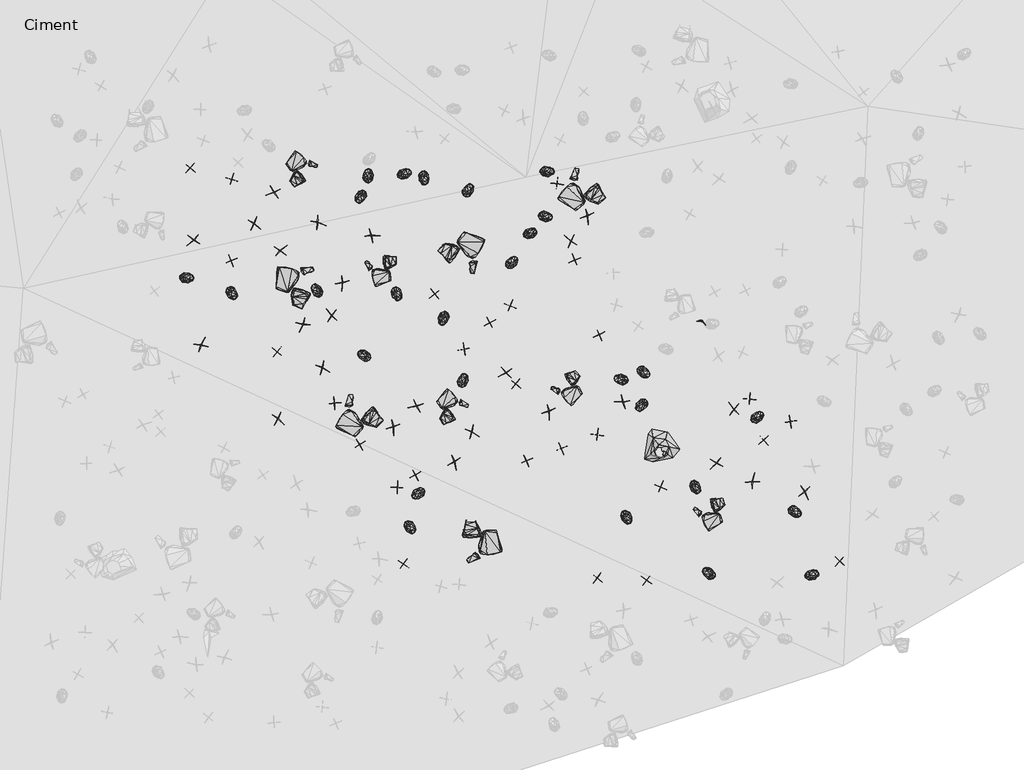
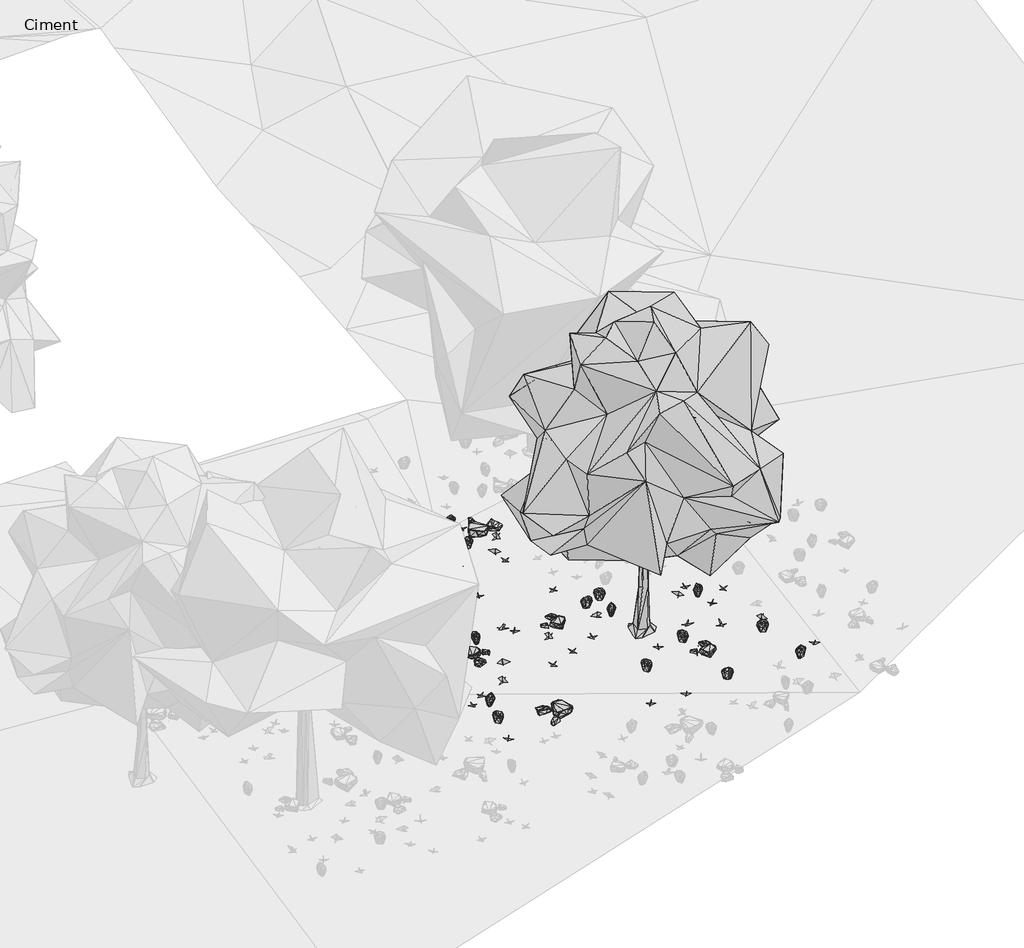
# One storey, part 12 of 30: 90 geographic elements.
"""IFC4 building model written with IfcOpenShell, lengths in millimetres."""

from ifc_helpers import new_model, si_unit, origin, place, context, project, spatial, transform, mapped, element, save
from components import enscape_assetdefinition_bush_025_fern_enscape_5718bf32, enscape_assetdefinition_bush_054_plant_09_version_2_enscape_7b546a12, enscape_assetdefinition_bush_062_plant_09_version_3_enscape_ccf8c8eb, enscape_assetdefinition_deciduous_tree_024_elm_enscape_8f9d8ef3, enscape_assetdefinition_stone_013_group_enscape_516da325, enscape_assetdefinition_stone_013_group_enscape_db9b3e91

model = new_model("IFC4")

# Units and contexts
model_context = context("Model", 3, world=origin())
ifc_project = project(units=[si_unit("LENGTHUNIT", "METRE", prefix="MILLI")], contexts=[model_context])

# Site, building, storey
site = spatial("IfcSite", under=ifc_project)
building = spatial("IfcBuilding", under=site)
storey = spatial("IfcBuildingStorey", under=building, Name="Ciment", Elevation=-1500.0)

# Geographic elements
placement = place(None, origin())
enscape_assetdefinition_bush_025_fern_enscape_shape = enscape_assetdefinition_bush_025_fern_enscape_5718bf32(model_context)
element("IfcGeographicElement", 1, ObjectType="Enscape AssetDefinition - Bush 025 Fern : Enscape AssetDefinition - Bush 025 Fern", at=placement, inside=storey, context=model_context, shape_type="MappedRepresentation", body=[
    mapped(enscape_assetdefinition_bush_025_fern_enscape_shape, transform((11021.7952728, -20855.3447723, -2519.2530155), x_axis=(0.6796096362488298, 0.7335739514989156, 0.0), y_axis=(-0.7335739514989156, 0.6796096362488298, 0.0), z_axis=(0.0, 0.0, 1.0))),
])
element("IfcGeographicElement", 2, ObjectType="Enscape AssetDefinition - Bush 025 Fern : Enscape AssetDefinition - Bush 025 Fern", at=placement, inside=storey, context=model_context, shape_type="MappedRepresentation", body=[
    mapped(enscape_assetdefinition_bush_025_fern_enscape_shape, transform((4358.71315, -22976.7246246, -2567.6140785), x_axis=(0.6626952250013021, -0.7488892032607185, 0.0), y_axis=(0.7488892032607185, 0.6626952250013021, 0.0), z_axis=(0.0, 0.0, 1.0))),
])
element("IfcGeographicElement", 3, ObjectType="Enscape AssetDefinition - Bush 025 Fern : Enscape AssetDefinition - Bush 025 Fern", at=placement, inside=storey, context=model_context, shape_type="MappedRepresentation", body=[
    mapped(enscape_assetdefinition_bush_025_fern_enscape_shape, transform((943.5005188, -18489.60495, -2092.2756195), x_axis=(0.6561057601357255, -0.7546689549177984, 0.0), y_axis=(0.7546689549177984, 0.6561057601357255, 0.0), z_axis=(0.0, 0.0, 1.0))),
])
element("IfcGeographicElement", 4, ObjectType="Enscape AssetDefinition - Bush 025 Fern : Enscape AssetDefinition - Bush 025 Fern", at=placement, inside=storey, context=model_context, shape_type="MappedRepresentation", body=[
    mapped(enscape_assetdefinition_bush_025_fern_enscape_shape, transform((3559.2517853, -16225.2941132, -1907.2303772), x_axis=(-0.034891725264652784, 0.9993910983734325, 0.0), y_axis=(-0.9993910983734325, -0.034891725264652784, 0.0), z_axis=(0.0, 0.0, 1.0))),
])
element("IfcGeographicElement", 5, ObjectType="Enscape AssetDefinition - Bush 025 Fern : Enscape AssetDefinition - Bush 025 Fern", at=placement, inside=storey, context=model_context, shape_type="MappedRepresentation", body=[
    mapped(enscape_assetdefinition_bush_025_fern_enscape_shape, transform((9826.5514374, -22208.6353302, -2622.6863861), x_axis=(0.5744602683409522, -0.818532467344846, 0.0), y_axis=(0.818532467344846, 0.5744602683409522, 0.0), z_axis=(0.0, 0.0, 1.0))),
])
element("IfcGeographicElement", 6, ObjectType="Enscape AssetDefinition - Bush 025 Fern : Enscape AssetDefinition - Bush 025 Fern", at=placement, inside=storey, context=model_context, shape_type="MappedRepresentation", body=[
    mapped(enscape_assetdefinition_bush_025_fern_enscape_shape, transform((5479.757309, -16505.1708221, -1999.9855757), x_axis=(0.39936852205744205, 0.9167904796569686, 0.0), y_axis=(-0.9167904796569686, 0.39936852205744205, 0.0), z_axis=(0.0, 0.0, 1.0))),
])
element("IfcGeographicElement", 7, ObjectType="Enscape AssetDefinition - Bush 025 Fern : Enscape AssetDefinition - Bush 025 Fern", at=placement, inside=storey, context=model_context, shape_type="MappedRepresentation", body=[
    mapped(enscape_assetdefinition_bush_025_fern_enscape_shape, transform((6314.8827553, -17887.6056671, -2146.4295387), x_axis=(0.5851652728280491, 0.8109140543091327, 0.0), y_axis=(-0.8109140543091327, 0.5851652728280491, 0.0), z_axis=(0.0, 0.0, 1.0))),
])
element("IfcGeographicElement", 8, ObjectType="Enscape AssetDefinition - Bush 025 Fern : Enscape AssetDefinition - Bush 025 Fern", at=placement, inside=storey, context=model_context, shape_type="MappedRepresentation", body=[
    mapped(enscape_assetdefinition_bush_025_fern_enscape_shape, transform((8507.8487396, -22786.0279083, -2649.561882), x_axis=(0.5706716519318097, -0.8211783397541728, 0.0), y_axis=(0.8211783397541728, 0.5706716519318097, 0.0), z_axis=(0.0, 0.0, 1.0))),
])
element("IfcGeographicElement", 9, ObjectType="Enscape AssetDefinition - Bush 025 Fern : Enscape AssetDefinition - Bush 025 Fern", at=placement, inside=storey, context=model_context, shape_type="MappedRepresentation", body=[
    mapped(enscape_assetdefinition_bush_025_fern_enscape_shape, transform((4258.7413788, -16194.8013306, -1923.519969), x_axis=(0.8985636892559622, 0.4388431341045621, 0.0), y_axis=(-0.4388431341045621, 0.8985636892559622, 0.0), z_axis=(0.0, 0.0, 1.0))),
])
element("IfcGeographicElement", 10, ObjectType="Enscape AssetDefinition - Bush 025 Fern : Enscape AssetDefinition - Bush 025 Fern", at=placement, inside=storey, context=model_context, shape_type="MappedRepresentation", body=[
    mapped(enscape_assetdefinition_bush_025_fern_enscape_shape, transform((4620.7485199, -16281.496048, -1945.4879761), x_axis=(0.2977200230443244, -0.9546532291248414, 0.0), y_axis=(0.9546532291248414, 0.2977200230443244, 0.0), z_axis=(0.0, 0.0, 1.0))),
])
element("IfcGeographicElement", 11, ObjectType="Enscape AssetDefinition - Bush 025 Fern : Enscape AssetDefinition - Bush 025 Fern", at=placement, inside=storey, context=model_context, shape_type="MappedRepresentation", body=[
    mapped(enscape_assetdefinition_bush_025_fern_enscape_shape, transform((10082.0217133, -23842.5807953, -2780.725956), x_axis=(-0.8589150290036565, 0.5121181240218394, 0.0), y_axis=(-0.5121181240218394, -0.8589150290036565, 0.0), z_axis=(0.0, 0.0, 1.0))),
])
element("IfcGeographicElement", 12, ObjectType="Enscape AssetDefinition - Bush 025 Fern : Enscape AssetDefinition - Bush 025 Fern", at=placement, inside=storey, context=model_context, shape_type="MappedRepresentation", body=[
    mapped(enscape_assetdefinition_bush_025_fern_enscape_shape, transform((4101.5753746, -18503.2711029, -2158.4897041), x_axis=(0.4796471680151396, -0.8774614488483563, 0.0), y_axis=(0.8774614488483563, 0.4796471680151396, 0.0), z_axis=(0.0, 0.0, 1.0))),
])
element("IfcGeographicElement", 13, ObjectType="Enscape AssetDefinition - Bush 025 Fern : Enscape AssetDefinition - Bush 025 Fern", at=placement, inside=storey, context=model_context, shape_type="MappedRepresentation", body=[
    mapped(enscape_assetdefinition_bush_025_fern_enscape_shape, transform((6958.9481354, -17015.7489777, -2078.1481266), x_axis=(0.9947204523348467, -0.10262174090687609, 0.0), y_axis=(0.10262174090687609, 0.9947204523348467, 0.0), z_axis=(0.0, 0.0, 1.0))),
])
element("IfcGeographicElement", 14, ObjectType="Enscape AssetDefinition - Bush 025 Fern : Enscape AssetDefinition - Bush 025 Fern", at=placement, inside=storey, context=model_context, shape_type="MappedRepresentation", body=[
    mapped(enscape_assetdefinition_bush_025_fern_enscape_shape, transform((11735.4297638, -22678.0490875, -2704.8373222), x_axis=(0.9013734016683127, -0.43304271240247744, 0.0), y_axis=(0.43304271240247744, 0.9013734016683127, 0.0), z_axis=(0.0, 0.0, 1.0))),
])
element("IfcGeographicElement", 15, ObjectType="Enscape AssetDefinition - Bush 025 Fern : Enscape AssetDefinition - Bush 025 Fern", at=placement, inside=storey, context=model_context, shape_type="MappedRepresentation", body=[
    mapped(enscape_assetdefinition_bush_025_fern_enscape_shape, transform((8835.9737396, -20002.2068024, -2395.9999084), x_axis=(0.8802910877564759, -0.47443397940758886, 0.0), y_axis=(0.47443397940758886, 0.8802910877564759, 0.0), z_axis=(0.0, 0.0, 1.0))),
])
element("IfcGeographicElement", 16, ObjectType="Enscape AssetDefinition - Bush 025 Fern : Enscape AssetDefinition - Bush 025 Fern", at=placement, inside=storey, context=model_context, shape_type="MappedRepresentation", body=[
    mapped(enscape_assetdefinition_bush_025_fern_enscape_shape, transform((8784.6927643, -20630.6018829, -2453.7053108), x_axis=(-0.5450980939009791, -0.8383722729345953, 0.0), y_axis=(0.8383722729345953, -0.5450980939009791, 0.0), z_axis=(0.0, 0.0, 1.0))),
])
element("IfcGeographicElement", 17, ObjectType="Enscape AssetDefinition - Bush 025 Fern : Enscape AssetDefinition - Bush 025 Fern", at=placement, inside=storey, context=model_context, shape_type="MappedRepresentation", body=[
    mapped(enscape_assetdefinition_bush_025_fern_enscape_shape, transform((12070.4784393, -23882.4520111, -2824.7976303), x_axis=(0.915598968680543, 0.4020926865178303, 0.0), y_axis=(-0.4020926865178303, 0.915598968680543, 0.0), z_axis=(0.0, 0.0, 1.0))),
])
element("IfcGeographicElement", 18, ObjectType="Enscape AssetDefinition - Bush 025 Fern : Enscape AssetDefinition - Bush 025 Fern", at=placement, inside=storey, context=model_context, shape_type="MappedRepresentation", body=[
    mapped(enscape_assetdefinition_bush_025_fern_enscape_shape, transform((4992.1131134, -18970.1042175, -2220.4537392), x_axis=(-0.22419190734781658, -0.9745450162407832, 0.0), y_axis=(0.9745450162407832, -0.22419190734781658, 0.0), z_axis=(0.0, 0.0, 1.0))),
])
element("IfcGeographicElement", 19, ObjectType="Enscape AssetDefinition - Bush 025 Fern : Enscape AssetDefinition - Bush 025 Fern", at=placement, inside=storey, context=model_context, shape_type="MappedRepresentation", body=[
    mapped(enscape_assetdefinition_bush_025_fern_enscape_shape, transform((6992.3233986, -16153.6121368, -1996.7064857), x_axis=(0.9950712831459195, 0.09916219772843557, 0.0), y_axis=(-0.09916219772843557, 0.9950712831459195, 0.0), z_axis=(0.0, 0.0, 1.0))),
])
element("IfcGeographicElement", 20, ObjectType="Enscape AssetDefinition - Bush 025 Fern : Enscape AssetDefinition - Bush 025 Fern", at=placement, inside=storey, context=model_context, shape_type="MappedRepresentation", body=[
    mapped(enscape_assetdefinition_bush_025_fern_enscape_shape, transform((8394.4826126, -20128.1795502, -2398.7014294), x_axis=(-0.9903510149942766, 0.13858162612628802, 0.0), y_axis=(-0.13858162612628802, -0.9903510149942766, 0.0), z_axis=(0.0, 0.0, 1.0))),
])
element("IfcGeographicElement", 21, ObjectType="Enscape AssetDefinition - Bush 025 Fern : Enscape AssetDefinition - Bush 025 Fern", at=placement, inside=storey, context=model_context, shape_type="MappedRepresentation", body=[
    mapped(enscape_assetdefinition_bush_025_fern_enscape_shape, transform((6667.1848297, -17333.1661224, -2101.8295288), x_axis=(0.8896094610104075, 0.45672202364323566, 0.0), y_axis=(-0.45672202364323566, 0.8896094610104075, 0.0), z_axis=(0.0, 0.0, 1.0))),
])
element("IfcGeographicElement", 22, ObjectType="Enscape AssetDefinition - Bush 025 Fern : Enscape AssetDefinition - Bush 025 Fern", at=placement, inside=storey, context=model_context, shape_type="MappedRepresentation", body=[
    mapped(enscape_assetdefinition_bush_025_fern_enscape_shape, transform((5376.4472008, -20149.0459442, -2338.5961056), x_axis=(0.25424516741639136, 0.9671398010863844, 0.0), y_axis=(-0.9671398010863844, 0.25424516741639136, 0.0), z_axis=(0.0, 0.0, 1.0))),
])
element("IfcGeographicElement", 23, ObjectType="Enscape AssetDefinition - Bush 025 Fern : Enscape AssetDefinition - Bush 025 Fern", at=placement, inside=storey, context=model_context, shape_type="MappedRepresentation", body=[
    mapped(enscape_assetdefinition_bush_025_fern_enscape_shape, transform((4504.9800873, -22321.5847015, -2518.2185173), x_axis=(-0.7461285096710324, -0.665801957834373, 0.0), y_axis=(0.665801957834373, -0.7461285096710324, 0.0), z_axis=(0.0, 0.0, 1.0))),
])
element("IfcGeographicElement", 24, ObjectType="Enscape AssetDefinition - Bush 025 Fern : Enscape AssetDefinition - Bush 025 Fern", at=placement, inside=storey, context=model_context, shape_type="MappedRepresentation", body=[
    mapped(enscape_assetdefinition_bush_025_fern_enscape_shape, transform((3404.7298431, -16638.3304596, -1957.3014975), x_axis=(-0.3665409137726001, -0.9304019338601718, 0.0), y_axis=(0.9304019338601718, -0.3665409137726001, 0.0), z_axis=(0.0, 0.0, 1.0))),
])
element("IfcGeographicElement", 25, ObjectType="Enscape AssetDefinition - Bush 025 Fern : Enscape AssetDefinition - Bush 025 Fern", at=placement, inside=storey, context=model_context, shape_type="MappedRepresentation", body=[
    mapped(enscape_assetdefinition_bush_025_fern_enscape_shape, transform((84.312439, -18192.0146942, -2046.7820168), x_axis=(0.9954423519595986, 0.09536521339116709, 0.0), y_axis=(-0.09536521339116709, 0.9954423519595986, 0.0), z_axis=(0.0, 0.0, 1.0))),
])
element("IfcGeographicElement", 26, ObjectType="Enscape AssetDefinition - Bush 025 Fern : Enscape AssetDefinition - Bush 025 Fern", at=placement, inside=storey, context=model_context, shape_type="MappedRepresentation", body=[
    mapped(enscape_assetdefinition_bush_025_fern_enscape_shape, transform((2571.3729858, -18421.1368561, -2119.3451881), x_axis=(-0.6502964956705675, 0.7596805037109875, 0.0), y_axis=(-0.7596805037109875, -0.6502964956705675, 0.0), z_axis=(0.0, 0.0, 1.0))),
])
element("IfcGeographicElement", 27, ObjectType="Enscape AssetDefinition - Bush 025 Fern : Enscape AssetDefinition - Bush 025 Fern", at=placement, inside=storey, context=model_context, shape_type="MappedRepresentation", body=[
    mapped(enscape_assetdefinition_bush_025_fern_enscape_shape, transform((3473.9663601, -19668.6840057, -2254.5599937), x_axis=(-0.9281703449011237, 0.3721556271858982, 0.0), y_axis=(-0.3721556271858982, -0.9281703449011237, 0.0), z_axis=(0.0, 0.0, 1.0))),
])
enscape_assetdefinition_bush_054_plant_09_version_2_enscape_shape = enscape_assetdefinition_bush_054_plant_09_version_2_enscape_7b546a12(model_context)
element("IfcGeographicElement", 28, ObjectType="Enscape AssetDefinition - Bush 054 Plant 09, Version 2 : Enscape AssetDefinition - Bush 054 Plant 09, Version 2", at=placement, inside=storey, context=model_context, shape_type="MappedRepresentation", body=[
    mapped(enscape_assetdefinition_bush_054_plant_09_version_2_enscape_shape, transform((5391.5615082, -19560.0910187, -2283.8354111), x_axis=(0.9787778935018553, 0.20492397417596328, 0.0), y_axis=(-0.20492397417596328, 0.9787778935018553, 0.0), z_axis=(0.0, 0.0, 1.0))),
])
element("IfcGeographicElement", 29, ObjectType="Enscape AssetDefinition - Bush 054 Plant 09, Version 2 : Enscape AssetDefinition - Bush 054 Plant 09, Version 2", at=placement, inside=storey, context=model_context, shape_type="MappedRepresentation", body=[
    mapped(enscape_assetdefinition_bush_054_plant_09_version_2_enscape_shape, transform((6591.9895172, -21688.6482239, -2507.5540543), x_axis=(-0.9031251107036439, -0.429377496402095, 0.0), y_axis=(0.429377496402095, -0.9031251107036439, 0.0), z_axis=(0.0, 0.0, 1.0))),
])
element("IfcGeographicElement", 30, ObjectType="Enscape AssetDefinition - Bush 054 Plant 09, Version 2 : Enscape AssetDefinition - Bush 054 Plant 09, Version 2", at=placement, inside=storey, context=model_context, shape_type="MappedRepresentation", body=[
    mapped(enscape_assetdefinition_bush_054_plant_09_version_2_enscape_shape, transform((936.0542297, -16296.5869904, -1840.4512405), x_axis=(-0.22904338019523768, -0.9734162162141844, 0.0), y_axis=(0.9734162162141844, -0.22904338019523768, 0.0), z_axis=(0.0, 0.0, 1.0))),
])
element("IfcGeographicElement", 31, ObjectType="Enscape AssetDefinition - Bush 054 Plant 09, Version 2 : Enscape AssetDefinition - Bush 054 Plant 09, Version 2", at=placement, inside=storey, context=model_context, shape_type="MappedRepresentation", body=[
    mapped(enscape_assetdefinition_bush_054_plant_09_version_2_enscape_shape, transform((10860.8150482, -20508.9817047, -2483.4909439), x_axis=(-0.029698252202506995, -0.9995589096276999, 0.0), y_axis=(0.9995589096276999, -0.029698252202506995, 0.0), z_axis=(0.0, 0.0, 1.0))),
])
element("IfcGeographicElement", 32, ObjectType="Enscape AssetDefinition - Bush 054 Plant 09, Version 2 : Enscape AssetDefinition - Bush 054 Plant 09, Version 2", at=placement, inside=storey, context=model_context, shape_type="MappedRepresentation", body=[
    mapped(enscape_assetdefinition_bush_054_plant_09_version_2_enscape_shape, transform((7172.4953651, -16378.9196014, -2022.4683285), x_axis=(-0.06364869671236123, -0.9979723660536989, 0.0), y_axis=(0.9979723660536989, -0.06364869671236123, 0.0), z_axis=(0.0, 0.0, 1.0))),
])
element("IfcGeographicElement", 33, ObjectType="Enscape AssetDefinition - Bush 054 Plant 09, Version 2 : Enscape AssetDefinition - Bush 054 Plant 09, Version 2", at=placement, inside=storey, context=model_context, shape_type="MappedRepresentation", body=[
    mapped(enscape_assetdefinition_bush_054_plant_09_version_2_enscape_shape, transform((7256.860733, -21453.6361694, -2499.2501736), x_axis=(-0.902440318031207, -0.43081489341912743, 0.0), y_axis=(0.43081489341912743, -0.902440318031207, 0.0), z_axis=(0.0, 0.0, 1.0))),
])
element("IfcGeographicElement", 34, ObjectType="Enscape AssetDefinition - Bush 054 Plant 09, Version 2 : Enscape AssetDefinition - Bush 054 Plant 09, Version 2", at=placement, inside=storey, context=model_context, shape_type="MappedRepresentation", body=[
    mapped(enscape_assetdefinition_bush_054_plant_09_version_2_enscape_shape, transform((11650.4039764, -20936.8362427, -2539.2193794), x_axis=(-0.9771301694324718, -0.21264202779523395, 0.0), y_axis=(0.21264202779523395, -0.9771301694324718, 0.0), z_axis=(0.0, 0.0, 1.0))),
])
element("IfcGeographicElement", 35, ObjectType="Enscape AssetDefinition - Bush 054 Plant 09, Version 2 : Enscape AssetDefinition - Bush 054 Plant 09, Version 2", at=placement, inside=storey, context=model_context, shape_type="MappedRepresentation", body=[
    mapped(enscape_assetdefinition_bush_054_plant_09_version_2_enscape_shape, transform((149.6925354, -16080.7933807, -1789.1050577), x_axis=(-0.8062843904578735, 0.591528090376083, 0.0), y_axis=(-0.591528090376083, -0.8062843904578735, 0.0), z_axis=(0.0, 0.0, 1.0))),
])
element("IfcGeographicElement", 36, ObjectType="Enscape AssetDefinition - Bush 054 Plant 09, Version 2 : Enscape AssetDefinition - Bush 054 Plant 09, Version 2", at=placement, inside=storey, context=model_context, shape_type="MappedRepresentation", body=[
    mapped(enscape_assetdefinition_bush_054_plant_09_version_2_enscape_shape, transform((7951.2500763, -23940.8454895, -2740.1037216), x_axis=(-0.8247609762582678, 0.5654815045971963, 0.0), y_axis=(-0.5654815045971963, -0.8247609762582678, 0.0), z_axis=(0.0, 0.0, 1.0))),
])
element("IfcGeographicElement", 37, ObjectType="Enscape AssetDefinition - Bush 054 Plant 09, Version 2 : Enscape AssetDefinition - Bush 054 Plant 09, Version 2", at=placement, inside=storey, context=model_context, shape_type="MappedRepresentation", body=[
    mapped(enscape_assetdefinition_bush_054_plant_09_version_2_enscape_shape, transform((7507.9174042, -17845.4151154, -2167.0157909), x_axis=(0.4056154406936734, -0.9140438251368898, 0.0), y_axis=(0.9140438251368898, 0.4056154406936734, 0.0), z_axis=(0.0, 0.0, 1.0))),
])
element("IfcGeographicElement", 38, ObjectType="Enscape AssetDefinition - Bush 054 Plant 09, Version 2 : Enscape AssetDefinition - Bush 054 Plant 09, Version 2", at=placement, inside=storey, context=model_context, shape_type="MappedRepresentation", body=[
    mapped(enscape_assetdefinition_bush_054_plant_09_version_2_enscape_shape, transform((4110.7158661, -22208.902359, -2498.7301826), x_axis=(0.9999029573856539, 0.013931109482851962, 0.0), y_axis=(-0.013931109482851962, 0.9999029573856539, 0.0), z_axis=(0.0, 0.0, 1.0))),
])
element("IfcGeographicElement", 39, ObjectType="Enscape AssetDefinition - Bush 054 Plant 09, Version 2 : Enscape AssetDefinition - Bush 054 Plant 09, Version 2", at=placement, inside=storey, context=model_context, shape_type="MappedRepresentation", body=[
    mapped(enscape_assetdefinition_bush_054_plant_09_version_2_enscape_shape, transform((7941.6446686, -21194.5590973, -2489.1047478), x_axis=(-0.07323408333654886, -0.9973147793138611, 0.0), y_axis=(0.9973147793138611, -0.07323408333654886, 0.0), z_axis=(0.0, 0.0, 1.0))),
])
element("IfcGeographicElement", 40, ObjectType="Enscape AssetDefinition - Bush 054 Plant 09, Version 2 : Enscape AssetDefinition - Bush 054 Plant 09, Version 2", at=placement, inside=storey, context=model_context, shape_type="MappedRepresentation", body=[
    mapped(enscape_assetdefinition_bush_054_plant_09_version_2_enscape_shape, transform((12593.6517715, -23624.1512299, -2810.7073307), x_axis=(0.6368762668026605, 0.770966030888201, 0.0), y_axis=(-0.770966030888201, 0.6368762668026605, 0.0), z_axis=(0.0, 0.0, 1.0))),
])
element("IfcGeographicElement", 41, ObjectType="Enscape AssetDefinition - Bush 054 Plant 09, Version 2 : Enscape AssetDefinition - Bush 054 Plant 09, Version 2", at=placement, inside=storey, context=model_context, shape_type="MappedRepresentation", body=[
    mapped(enscape_assetdefinition_bush_054_plant_09_version_2_enscape_shape, transform((4827.7945518, -18502.790451, -2173.377037), x_axis=(0.7454033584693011, 0.6666137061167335, 0.0), y_axis=(-0.6666137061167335, 0.7454033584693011, 0.0), z_axis=(0.0, 0.0, 1.0))),
])
element("IfcGeographicElement", 42, ObjectType="Enscape AssetDefinition - Bush 054 Plant 09, Version 2 : Enscape AssetDefinition - Bush 054 Plant 09, Version 2", at=placement, inside=storey, context=model_context, shape_type="MappedRepresentation", body=[
    mapped(enscape_assetdefinition_bush_054_plant_09_version_2_enscape_shape, transform((2913.3243561, -20583.0669403, -2328.5336494), x_axis=(-0.9898710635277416, -0.14196928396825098, 0.0), y_axis=(0.14196928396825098, -0.9898710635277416, 0.0), z_axis=(0.0, 0.0, 1.0))),
])
element("IfcGeographicElement", 43, ObjectType="Enscape AssetDefinition - Bush 054 Plant 09, Version 2 : Enscape AssetDefinition - Bush 054 Plant 09, Version 2", at=placement, inside=storey, context=model_context, shape_type="MappedRepresentation", body=[
    mapped(enscape_assetdefinition_bush_054_plant_09_version_2_enscape_shape, transform((4465.8298492, -21964.8418427, -2488.2085323), x_axis=(-0.5179006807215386, 0.8554407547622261, 0.0), y_axis=(-0.8554407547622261, -0.5179006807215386, 0.0), z_axis=(0.0, 0.0, 1.0))),
])
element("IfcGeographicElement", 44, ObjectType="Enscape AssetDefinition - Bush 054 Plant 09, Version 2 : Enscape AssetDefinition - Bush 054 Plant 09, Version 2", at=placement, inside=storey, context=model_context, shape_type="MappedRepresentation", body=[
    mapped(enscape_assetdefinition_bush_054_plant_09_version_2_enscape_shape, transform((6390.0432587, -20218.9083099, -2365.9703732), x_axis=(-0.8069093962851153, 0.5906752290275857, 0.0), y_axis=(-0.5906752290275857, -0.8069093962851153, 0.0), z_axis=(0.0, 0.0, 1.0))),
])
element("IfcGeographicElement", 45, ObjectType="Enscape AssetDefinition - Bush 054 Plant 09, Version 2 : Enscape AssetDefinition - Bush 054 Plant 09, Version 2", at=placement, inside=storey, context=model_context, shape_type="MappedRepresentation", body=[
    mapped(enscape_assetdefinition_bush_054_plant_09_version_2_enscape_shape, transform((927.5760651, -17854.0992737, -2032.5231552), x_axis=(-0.9069850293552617, -0.421162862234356, 0.0), y_axis=(0.421162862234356, -0.9069850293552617, 0.0), z_axis=(0.0, 0.0, 1.0))),
])
element("IfcGeographicElement", 46, ObjectType="Enscape AssetDefinition - Bush 054 Plant 09, Version 2 : Enscape AssetDefinition - Bush 054 Plant 09, Version 2", at=placement, inside=storey, context=model_context, shape_type="MappedRepresentation", body=[
    mapped(enscape_assetdefinition_bush_054_plant_09_version_2_enscape_shape, transform((9157.1712494, -22190.4830933, -2607.2251797), x_axis=(-0.34210219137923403, -0.9396627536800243, 0.0), y_axis=(0.9396627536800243, -0.34210219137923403, 0.0), z_axis=(0.0, 0.0, 1.0))),
])
element("IfcGeographicElement", 47, ObjectType="Enscape AssetDefinition - Bush 054 Plant 09, Version 2 : Enscape AssetDefinition - Bush 054 Plant 09, Version 2", at=placement, inside=storey, context=model_context, shape_type="MappedRepresentation", body=[
    mapped(enscape_assetdefinition_bush_054_plant_09_version_2_enscape_shape, transform((8891.8209076, -23989.1033173, -2768.6755657), x_axis=(0.5606675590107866, 0.8280409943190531, 0.0), y_axis=(-0.8280409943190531, 0.5606675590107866, 0.0), z_axis=(0.0, 0.0, 1.0))),
])
element("IfcGeographicElement", 48, ObjectType="Enscape AssetDefinition - Bush 054 Plant 09, Version 2 : Enscape AssetDefinition - Bush 054 Plant 09, Version 2", at=placement, inside=storey, context=model_context, shape_type="MappedRepresentation", body=[
    mapped(enscape_assetdefinition_bush_054_plant_09_version_2_enscape_shape, transform((7988.8820648, -19277.2579193, -2310.7936382), x_axis=(-0.4683398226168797, 0.8835484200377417, 0.0), y_axis=(-0.8835484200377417, -0.4683398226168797, 0.0), z_axis=(0.0, 0.0, 1.0))),
])
element("IfcGeographicElement", 49, ObjectType="Enscape AssetDefinition - Bush 054 Plant 09, Version 2 : Enscape AssetDefinition - Bush 054 Plant 09, Version 2", at=placement, inside=storey, context=model_context, shape_type="MappedRepresentation", body=[
    mapped(enscape_assetdefinition_bush_054_plant_09_version_2_enscape_shape, transform((11140.1119232, -21298.7613678, -2563.3196831), x_axis=(-0.7149092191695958, 0.6992172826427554, 0.0), y_axis=(-0.6992172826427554, -0.7149092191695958, 0.0), z_axis=(0.0, 0.0, 1.0))),
])
element("IfcGeographicElement", 50, ObjectType="Enscape AssetDefinition - Bush 054 Plant 09, Version 2 : Enscape AssetDefinition - Bush 054 Plant 09, Version 2", at=placement, inside=storey, context=model_context, shape_type="MappedRepresentation", body=[
    mapped(enscape_assetdefinition_bush_054_plant_09_version_2_enscape_shape, transform((3394.2279816, -21374.0329742, -2412.1203423), x_axis=(-0.8266426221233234, -0.5627272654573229, 0.0), y_axis=(0.5627272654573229, -0.8266426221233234, 0.0), z_axis=(0.0, 0.0, 1.0))),
])
element("IfcGeographicElement", 51, ObjectType="Enscape AssetDefinition - Bush 054 Plant 09, Version 2 : Enscape AssetDefinition - Bush 054 Plant 09, Version 2", at=placement, inside=storey, context=model_context, shape_type="MappedRepresentation", body=[
    mapped(enscape_assetdefinition_bush_054_plant_09_version_2_enscape_shape, transform((6272.5505829, -18720.6783295, -2223.4578133), x_axis=(-0.3100598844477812, -0.9507170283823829, 0.0), y_axis=(0.9507170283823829, -0.3100598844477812, 0.0), z_axis=(0.0, 0.0, 1.0))),
])
element("IfcGeographicElement", 52, ObjectType="Enscape AssetDefinition - Bush 054 Plant 09, Version 2 : Enscape AssetDefinition - Bush 054 Plant 09, Version 2", at=placement, inside=storey, context=model_context, shape_type="MappedRepresentation", body=[
    mapped(enscape_assetdefinition_bush_054_plant_09_version_2_enscape_shape, transform((5880.8422089, -19047.4452972, -2245.9592819), x_axis=(0.53165266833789, -0.8469624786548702, 0.0), y_axis=(0.8469624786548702, 0.53165266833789, 0.0), z_axis=(0.0, 0.0, 1.0))),
])
element("IfcGeographicElement", 53, ObjectType="Enscape AssetDefinition - Bush 054 Plant 09, Version 2 : Enscape AssetDefinition - Bush 054 Plant 09, Version 2", at=placement, inside=storey, context=model_context, shape_type="MappedRepresentation", body=[
    mapped(enscape_assetdefinition_bush_054_plant_09_version_2_enscape_shape, transform((4228.0297279, -23668.0545807, -2620.3579903), x_axis=(-0.5357435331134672, -0.844380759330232, 0.0), y_axis=(0.844380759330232, -0.5357435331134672, 0.0), z_axis=(0.0, 0.0, 1.0))),
])
element("IfcGeographicElement", 54, ObjectType="Enscape AssetDefinition - Bush 054 Plant 09, Version 2 : Enscape AssetDefinition - Bush 054 Plant 09, Version 2", at=placement, inside=storey, context=model_context, shape_type="MappedRepresentation", body=[
    mapped(enscape_assetdefinition_bush_054_plant_09_version_2_enscape_shape, transform((1806.3468933, -19608.3621979, -2214.630127), x_axis=(0.8165054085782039, -0.5773377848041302, 0.0), y_axis=(0.5773377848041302, 0.8165054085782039, 0.0), z_axis=(0.0, 0.0, 1.0))),
])
enscape_assetdefinition_bush_062_plant_09_version_3_enscape_shape = enscape_assetdefinition_bush_062_plant_09_version_3_enscape_ccf8c8eb(model_context)
element("IfcGeographicElement", 55, ObjectType="Enscape AssetDefinition - Bush 062 Plant 09, Version 3 : Enscape AssetDefinition - Bush 062 Plant 09, Version 3", at=placement, inside=storey, context=model_context, shape_type="MappedRepresentation", body=[
    mapped(enscape_assetdefinition_bush_062_plant_09_version_3_enscape_shape, transform((1878.7631989, -17656.9271088, -2033.6441994), x_axis=(0.8765787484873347, -0.48125845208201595, 0.0), y_axis=(0.48125845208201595, 0.8765787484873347, 0.0), z_axis=(0.0, 0.0, 1.0))),
])
element("IfcGeographicElement", 56, ObjectType="Enscape AssetDefinition - Bush 062 Plant 09, Version 3 : Enscape AssetDefinition - Bush 062 Plant 09, Version 3", at=placement, inside=storey, context=model_context, shape_type="MappedRepresentation", body=[
    mapped(enscape_assetdefinition_bush_062_plant_09_version_3_enscape_shape, transform((1834.3696594, -20894.4568634, -2332.2732449), x_axis=(-0.36069454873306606, -0.9326839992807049, 0.0), y_axis=(0.9326839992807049, -0.36069454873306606, 0.0), z_axis=(0.0, 0.0, 1.0))),
])
element("IfcGeographicElement", 57, ObjectType="Enscape AssetDefinition - Bush 062 Plant 09, Version 3 : Enscape AssetDefinition - Bush 062 Plant 09, Version 3", at=placement, inside=storey, context=model_context, shape_type="MappedRepresentation", body=[
    mapped(enscape_assetdefinition_bush_062_plant_09_version_3_enscape_shape, transform((1739.9539948, -16554.4166565, -1897.860527), x_axis=(-0.6519295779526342, 0.7582795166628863, 0.0), y_axis=(-0.7582795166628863, -0.6519295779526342, 0.0), z_axis=(0.0, 0.0, 1.0))),
])
element("IfcGeographicElement", 58, ObjectType="Enscape AssetDefinition - Bush 062 Plant 09, Version 3 : Enscape AssetDefinition - Bush 062 Plant 09, Version 3", at=placement, inside=storey, context=model_context, shape_type="MappedRepresentation", body=[
    mapped(enscape_assetdefinition_bush_062_plant_09_version_3_enscape_shape, transform((10556.9515228, -20702.9743195, -2495.8148003), x_axis=(0.5116417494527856, 0.8591988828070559, 0.0), y_axis=(-0.8591988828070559, 0.5116417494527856, 0.0), z_axis=(0.0, 0.0, 1.0))),
])
element("IfcGeographicElement", 59, ObjectType="Enscape AssetDefinition - Bush 062 Plant 09, Version 3 : Enscape AssetDefinition - Bush 062 Plant 09, Version 3", at=placement, inside=storey, context=model_context, shape_type="MappedRepresentation", body=[
    mapped(enscape_assetdefinition_bush_062_plant_09_version_3_enscape_shape, transform((6187.5891685, -20014.7228241, -2342.7143097), x_axis=(-0.746041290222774, 0.6658996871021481, 0.0), y_axis=(-0.6658996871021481, -0.746041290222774, 0.0), z_axis=(0.0, 0.0, 1.0))),
])
element("IfcGeographicElement", 60, ObjectType="Enscape AssetDefinition - Bush 062 Plant 09, Version 3 : Enscape AssetDefinition - Bush 062 Plant 09, Version 3", at=placement, inside=storey, context=model_context, shape_type="MappedRepresentation", body=[
    mapped(enscape_assetdefinition_bush_062_plant_09_version_3_enscape_shape, transform((2305.160284, -19088.9415741, -2176.3167381), x_axis=(-0.9990956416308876, 0.04251939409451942, 0.0), y_axis=(-0.04251939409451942, -0.9990956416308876, 0.0), z_axis=(0.0, 0.0, 1.0))),
])
element("IfcGeographicElement", 61, ObjectType="Enscape AssetDefinition - Bush 062 Plant 09, Version 3 : Enscape AssetDefinition - Bush 062 Plant 09, Version 3", at=placement, inside=storey, context=model_context, shape_type="MappedRepresentation", body=[
    mapped(enscape_assetdefinition_bush_062_plant_09_version_3_enscape_shape, transform((4471.1360931, -20647.5658417, -2366.5964603), x_axis=(-0.5479809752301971, 0.8364907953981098, 0.0), y_axis=(-0.8364907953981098, -0.5479809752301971, 0.0), z_axis=(0.0, 0.0, 1.0))),
])
element("IfcGeographicElement", 62, ObjectType="Enscape AssetDefinition - Bush 062 Plant 09, Version 3 : Enscape AssetDefinition - Bush 062 Plant 09, Version 3", at=placement, inside=storey, context=model_context, shape_type="MappedRepresentation", body=[
    mapped(enscape_assetdefinition_bush_062_plant_09_version_3_enscape_shape, transform((2600.5175114, -17127.1152496, -1998.5073805), x_axis=(0.036687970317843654, -0.9993267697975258, 0.0), y_axis=(0.9993267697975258, 0.036687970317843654, 0.0), z_axis=(0.0, 0.0, 1.0))),
])
element("IfcGeographicElement", 63, ObjectType="Enscape AssetDefinition - Bush 062 Plant 09, Version 3 : Enscape AssetDefinition - Bush 062 Plant 09, Version 3", at=placement, inside=storey, context=model_context, shape_type="MappedRepresentation", body=[
    mapped(enscape_assetdefinition_bush_062_plant_09_version_3_enscape_shape, transform((7022.1805573, -20756.2255859, -2429.2116165), x_axis=(-0.8975610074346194, -0.44089027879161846, 0.0), y_axis=(0.44089027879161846, -0.8975610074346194, 0.0), z_axis=(0.0, 0.0, 1.0))),
])
element("IfcGeographicElement", 64, ObjectType="Enscape AssetDefinition - Bush 062 Plant 09, Version 3 : Enscape AssetDefinition - Bush 062 Plant 09, Version 3", at=placement, inside=storey, context=model_context, shape_type="MappedRepresentation", body=[
    mapped(enscape_assetdefinition_bush_062_plant_09_version_3_enscape_shape, transform((8424.943924, -20568.8877106, -2440.5374527), x_axis=(-0.3730774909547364, 0.9278001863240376, 0.0), y_axis=(-0.9278001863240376, -0.3730774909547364, 0.0), z_axis=(0.0, 0.0, 1.0))),
])
element("IfcGeographicElement", 65, ObjectType="Enscape AssetDefinition - Bush 062 Plant 09, Version 3 : Enscape AssetDefinition - Bush 062 Plant 09, Version 3", at=placement, inside=storey, context=model_context, shape_type="MappedRepresentation", body=[
    mapped(enscape_assetdefinition_bush_062_plant_09_version_3_enscape_shape, transform((5211.4276886, -21724.1764069, -2482.4900627), x_axis=(-0.8161526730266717, -0.5778363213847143, 0.0), y_axis=(0.5778363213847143, -0.8161526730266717, 0.0), z_axis=(0.0, 0.0, 1.0))),
])
element("IfcGeographicElement", 66, ObjectType="Enscape AssetDefinition - Bush 062 Plant 09, Version 3 : Enscape AssetDefinition - Bush 062 Plant 09, Version 3", at=placement, inside=storey, context=model_context, shape_type="MappedRepresentation", body=[
    mapped(enscape_assetdefinition_bush_062_plant_09_version_3_enscape_shape, transform((7432.6004982, -17476.1753082, -2130.8736801), x_axis=(0.3120523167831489, 0.950064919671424, 0.0), y_axis=(-0.950064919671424, 0.3120523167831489, 0.0), z_axis=(0.0, 0.0, 1.0))),
])
element("IfcGeographicElement", 67, ObjectType="Enscape AssetDefinition - Bush 062 Plant 09, Version 3 : Enscape AssetDefinition - Bush 062 Plant 09, Version 3", at=placement, inside=storey, context=model_context, shape_type="MappedRepresentation", body=[
    mapped(enscape_assetdefinition_bush_062_plant_09_version_3_enscape_shape, transform((10223.8292694, -21748.0564117, -2587.7063274), x_axis=(-0.9160767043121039, 0.40100308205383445, 0.0), y_axis=(-0.40100308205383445, -0.9160767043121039, 0.0), z_axis=(0.0, 0.0, 1.0))),
])
element("IfcGeographicElement", 68, ObjectType="Enscape AssetDefinition - Bush 062 Plant 09, Version 3 : Enscape AssetDefinition - Bush 062 Plant 09, Version 3", at=placement, inside=storey, context=model_context, shape_type="MappedRepresentation", body=[
    mapped(enscape_assetdefinition_bush_062_plant_09_version_3_enscape_shape, transform((1377.4585724, -17154.1004181, -1966.5460587), x_axis=(-0.29719760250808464, -0.9548159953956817, 0.0), y_axis=(0.9548159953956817, -0.29719760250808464, 0.0), z_axis=(0.0, 0.0, 1.0))),
])
element("IfcGeographicElement", 69, ObjectType="Enscape AssetDefinition - Bush 062 Plant 09, Version 3 : Enscape AssetDefinition - Bush 062 Plant 09, Version 3", at=placement, inside=storey, context=model_context, shape_type="MappedRepresentation", body=[
    mapped(enscape_assetdefinition_bush_062_plant_09_version_3_enscape_shape, transform((5553.8578033, -21143.6138153, -2435.2440834), x_axis=(-0.159762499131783, -0.9871554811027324, 0.0), y_axis=(0.9871554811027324, -0.159762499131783, 0.0), z_axis=(0.0, 0.0, 1.0))),
])
element("IfcGeographicElement", 70, ObjectType="Enscape AssetDefinition - Bush 062 Plant 09, Version 3 : Enscape AssetDefinition - Bush 062 Plant 09, Version 3", at=placement, inside=storey, context=model_context, shape_type="MappedRepresentation", body=[
    mapped(enscape_assetdefinition_bush_062_plant_09_version_3_enscape_shape, transform((10921.8235016, -22080.4042816, -2632.6508522), x_axis=(0.9864064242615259, 0.164323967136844, 0.0), y_axis=(-0.164323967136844, 0.9864064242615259, 0.0), z_axis=(0.0, 0.0, 1.0))),
])
element("IfcGeographicElement", 71, ObjectType="Enscape AssetDefinition - Bush 062 Plant 09, Version 3 : Enscape AssetDefinition - Bush 062 Plant 09, Version 3", at=placement, inside=storey, context=model_context, shape_type="MappedRepresentation", body=[
    mapped(enscape_assetdefinition_bush_062_plant_09_version_3_enscape_shape, transform((202.0015717, -17470.5295563, -1974.2010832), x_axis=(-0.878347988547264, 0.47802176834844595, 0.0), y_axis=(-0.47802176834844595, -0.878347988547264, 0.0), z_axis=(0.0, 0.0, 1.0))),
])
element("IfcGeographicElement", 72, ObjectType="Enscape AssetDefinition - Bush 062 Plant 09, Version 3 : Enscape AssetDefinition - Bush 062 Plant 09, Version 3", at=placement, inside=storey, context=model_context, shape_type="MappedRepresentation", body=[
    mapped(enscape_assetdefinition_bush_062_plant_09_version_3_enscape_shape, transform((7758.5086823, -17007.566452, -2093.1227207), x_axis=(-0.8846431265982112, -0.4662687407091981, 0.0), y_axis=(0.4662687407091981, -0.8846431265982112, 0.0), z_axis=(0.0, 0.0, 1.0))),
])
element("IfcGeographicElement", 73, ObjectType="Enscape AssetDefinition - Bush 062 Plant 09, Version 3 : Enscape AssetDefinition - Bush 062 Plant 09, Version 3", at=placement, inside=storey, context=model_context, shape_type="MappedRepresentation", body=[
    mapped(enscape_assetdefinition_bush_062_plant_09_version_3_enscape_shape, transform((2846.1358547, -18901.6895294, -2169.9309349), x_axis=(0.48664288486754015, 0.8736009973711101, 0.0), y_axis=(-0.8736009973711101, 0.48664288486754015, 0.0), z_axis=(0.0, 0.0, 1.0))),
])
element("IfcGeographicElement", 74, ObjectType="Enscape AssetDefinition - Bush 062 Plant 09, Version 3 : Enscape AssetDefinition - Bush 062 Plant 09, Version 3", at=placement, inside=storey, context=model_context, shape_type="MappedRepresentation", body=[
    mapped(enscape_assetdefinition_bush_062_plant_09_version_3_enscape_shape, transform((11927.6485443, -22297.6169586, -2672.7747917), x_axis=(-0.7062726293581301, -0.7079399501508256, 0.0), y_axis=(0.7079399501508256, -0.7062726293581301, 0.0), z_axis=(0.0, 0.0, 1.0))),
])
element("IfcGeographicElement", 75, ObjectType="Enscape AssetDefinition - Bush 062 Plant 09, Version 3 : Enscape AssetDefinition - Bush 062 Plant 09, Version 3", at=placement, inside=storey, context=model_context, shape_type="MappedRepresentation", body=[
    mapped(enscape_assetdefinition_bush_062_plant_09_version_3_enscape_shape, transform((354.970932, -19466.6996002, -2171.5402603), x_axis=(0.9966776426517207, -0.08144738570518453, 0.0), y_axis=(0.08144738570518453, 0.9966776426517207, 0.0), z_axis=(0.0, 0.0, 1.0))),
])
element("IfcGeographicElement", 76, ObjectType="Enscape AssetDefinition - Bush 062 Plant 09, Version 3 : Enscape AssetDefinition - Bush 062 Plant 09, Version 3", at=placement, inside=storey, context=model_context, shape_type="MappedRepresentation", body=[
    mapped(enscape_assetdefinition_bush_062_plant_09_version_3_enscape_shape, transform((2688.3239746, -19912.5537872, -2261.2090111), x_axis=(-0.1525534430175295, -0.9882952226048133, 0.0), y_axis=(0.9882952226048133, -0.1525534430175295, 0.0), z_axis=(0.0, 0.0, 1.0))),
])
element("IfcGeographicElement", 77, ObjectType="Enscape AssetDefinition - Bush 062 Plant 09, Version 3 : Enscape AssetDefinition - Bush 062 Plant 09, Version 3", at=placement, inside=storey, context=model_context, shape_type="MappedRepresentation", body=[
    mapped(enscape_assetdefinition_bush_062_plant_09_version_3_enscape_shape, transform((3063.2152557, -18288.9842987, -2117.1019077), x_axis=(-0.9426017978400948, -0.33391892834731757, 0.0), y_axis=(0.33391892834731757, -0.9426017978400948, 0.0), z_axis=(0.0, 0.0, 1.0))),
])
element("IfcGeographicElement", 78, ObjectType="Enscape AssetDefinition - Bush 062 Plant 09, Version 3 : Enscape AssetDefinition - Bush 062 Plant 09, Version 3", at=placement, inside=storey, context=model_context, shape_type="MappedRepresentation", body=[
    mapped(enscape_assetdefinition_bush_062_plant_09_version_3_enscape_shape, transform((3628.9424896, -17372.5414276, -2043.0393219), x_axis=(0.336843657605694, -0.941560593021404, 0.0), y_axis=(0.941560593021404, 0.336843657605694, 0.0), z_axis=(0.0, 0.0, 1.0))),
])
element("IfcGeographicElement", 79, ObjectType="Enscape AssetDefinition - Bush 062 Plant 09, Version 3 : Enscape AssetDefinition - Bush 062 Plant 09, Version 3", at=placement, inside=storey, context=model_context, shape_type="MappedRepresentation", body=[
    mapped(enscape_assetdefinition_bush_062_plant_09_version_3_enscape_shape, transform((4037.6567841, -21052.1297455, -2395.5135345), x_axis=(-0.904984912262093, -0.42544366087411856, 0.0), y_axis=(0.42544366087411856, -0.904984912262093, 0.0), z_axis=(0.0, 0.0, 1.0))),
])
enscape_assetdefinition_deciduous_tree_024_elm_enscape_shape = enscape_assetdefinition_deciduous_tree_024_elm_enscape_8f9d8ef3(model_context)
element("IfcGeographicElement", 80, ObjectType="Enscape AssetDefinition - Deciduous Tree 024 Elm : Enscape AssetDefinition - Deciduous Tree 024 Elm", at=placement, inside=storey, context=model_context, shape_type="MappedRepresentation", body=[
    mapped(enscape_assetdefinition_deciduous_tree_024_elm_enscape_shape, transform((9245.3403473, -21372.2381592, -2532.5255394), x_axis=(-0.7810017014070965, 0.6245288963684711, 0.0), y_axis=(-0.6245288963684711, -0.7810017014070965, 0.0), z_axis=(0.0, 0.0, 1.0))),
])
enscape_assetdefinition_stone_013_group_enscape_shape = enscape_assetdefinition_stone_013_group_enscape_516da325(model_context)
element("IfcGeographicElement", 81, ObjectType="Enscape AssetDefinition - Stone 013 Group : Enscape AssetDefinition - Stone 013 Group", at=placement, inside=storey, context=model_context, shape_type="MappedRepresentation", body=[
    mapped(enscape_assetdefinition_stone_013_group_enscape_shape, transform((3331.4762115, -20814.9585724, -2358.81567), x_axis=(-0.856443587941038, 0.5162406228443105, 0.0), y_axis=(-0.5162406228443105, -0.856443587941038, 0.0), z_axis=(0.0, 0.0, 1.0))),
])
element("IfcGeographicElement", 82, ObjectType="Enscape AssetDefinition - Stone 013 Group : Enscape AssetDefinition - Stone 013 Group", at=placement, inside=storey, context=model_context, shape_type="MappedRepresentation", body=[
    mapped(enscape_assetdefinition_stone_013_group_enscape_shape, transform((5684.5912933, -23283.6360931, -2627.2997856), x_axis=(0.1676001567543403, -0.9858550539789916, 0.0), y_axis=(0.9858550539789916, 0.1676001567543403, 0.0), z_axis=(0.0, 0.0, 1.0))),
])
element("IfcGeographicElement", 83, ObjectType="Enscape AssetDefinition - Stone 013 Group : Enscape AssetDefinition - Stone 013 Group", at=placement, inside=storey, context=model_context, shape_type="MappedRepresentation", body=[
    mapped(enscape_assetdefinition_stone_013_group_enscape_shape, transform((2185.8100891, -18262.0639801, -2096.5433121), x_axis=(0.15391457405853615, 0.988084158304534, 0.0), y_axis=(-0.988084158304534, 0.15391457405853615, 0.0), z_axis=(0.0, 0.0, 1.0))),
])
element("IfcGeographicElement", 84, ObjectType="Enscape AssetDefinition - Stone 013 Group : Enscape AssetDefinition - Stone 013 Group", at=placement, inside=storey, context=model_context, shape_type="MappedRepresentation", body=[
    mapped(enscape_assetdefinition_stone_013_group_enscape_shape, transform((5409.5478058, -17721.364975, -2112.2698784), x_axis=(0.8969161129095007, -0.44220073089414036, 0.0), y_axis=(0.44220073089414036, 0.8969161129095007, 0.0), z_axis=(0.0, 0.0, 1.0))),
])
element("IfcGeographicElement", 85, ObjectType="Enscape AssetDefinition - Stone 013 Group : Enscape AssetDefinition - Stone 013 Group", at=placement, inside=storey, context=model_context, shape_type="MappedRepresentation", body=[
    mapped(enscape_assetdefinition_stone_013_group_enscape_shape, transform((7613.779068, -16490.2744293, -2041.5835381), x_axis=(-0.782704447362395, 0.6223935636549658, 0.0), y_axis=(-0.6223935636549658, -0.782704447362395, 0.0), z_axis=(0.0, 0.0, 1.0))),
])
enscape_assetdefinition_stone_013_group_enscape_2_shape = enscape_assetdefinition_stone_013_group_enscape_db9b3e91(model_context)
element("IfcGeographicElement", 86, ObjectType="Enscape AssetDefinition - Stone 013 Group : Enscape AssetDefinition - Stone 013 Group 2", at=placement, inside=storey, context=model_context, shape_type="MappedRepresentation", body=[
    mapped(enscape_assetdefinition_stone_013_group_enscape_2_shape, transform((7366.8384552, -20299.3412018, -2393.5761452), x_axis=(-0.7389386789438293, -0.6737726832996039, 0.0), y_axis=(0.6737726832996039, -0.7389386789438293, 0.0), z_axis=(0.0, 0.0, 1.0))),
])
element("IfcGeographicElement", 87, ObjectType="Enscape AssetDefinition - Stone 013 Group : Enscape AssetDefinition - Stone 013 Group 2", at=placement, inside=storey, context=model_context, shape_type="MappedRepresentation", body=[
    mapped(enscape_assetdefinition_stone_013_group_enscape_2_shape, transform((2279.7966003, -16077.0053864, -1850.4779339), x_axis=(0.6505788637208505, 0.7594387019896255, 0.0), y_axis=(-0.7594387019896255, 0.6505788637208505, 0.0), z_axis=(0.0, 0.0, 1.0))),
])
element("IfcGeographicElement", 88, ObjectType="Enscape AssetDefinition - Stone 013 Group : Enscape AssetDefinition - Stone 013 Group 2", at=placement, inside=storey, context=model_context, shape_type="MappedRepresentation", body=[
    mapped(enscape_assetdefinition_stone_013_group_enscape_2_shape, transform((3774.7404575, -18013.1473541, -2105.9389114), x_axis=(-0.9620317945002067, -0.2729374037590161, 0.0), y_axis=(0.2729374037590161, -0.9620317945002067, 0.0), z_axis=(0.0, 0.0, 1.0))),
])
element("IfcGeographicElement", 89, ObjectType="Enscape AssetDefinition - Stone 013 Group : Enscape AssetDefinition - Stone 013 Group 2", at=placement, inside=storey, context=model_context, shape_type="MappedRepresentation", body=[
    mapped(enscape_assetdefinition_stone_013_group_enscape_2_shape, transform((5166.2006378, -20647.2949982, -2380.8634281), x_axis=(0.7096342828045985, 0.7045702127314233, 0.0), y_axis=(-0.7045702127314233, 0.7096342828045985, 0.0), z_axis=(0.0, 0.0, 1.0))),
])
element("IfcGeographicElement", 90, ObjectType="Enscape AssetDefinition - Stone 013 Group : Enscape AssetDefinition - Stone 013 Group 2", at=placement, inside=storey, context=model_context, shape_type="MappedRepresentation", body=[
    mapped(enscape_assetdefinition_stone_013_group_enscape_2_shape, transform((10089.2620087, -22690.8817291, -2673.1817722), x_axis=(-0.8921133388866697, -0.45181167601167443, 0.0), y_axis=(0.45181167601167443, -0.8921133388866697, 0.0), z_axis=(0.0, 0.0, 1.0))),
])

save(model, "model.ifc")
